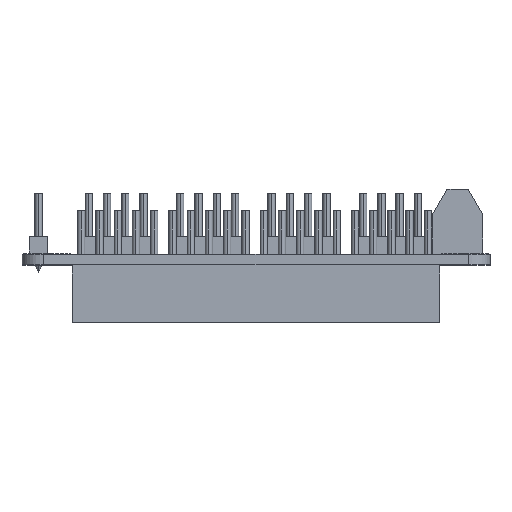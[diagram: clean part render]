
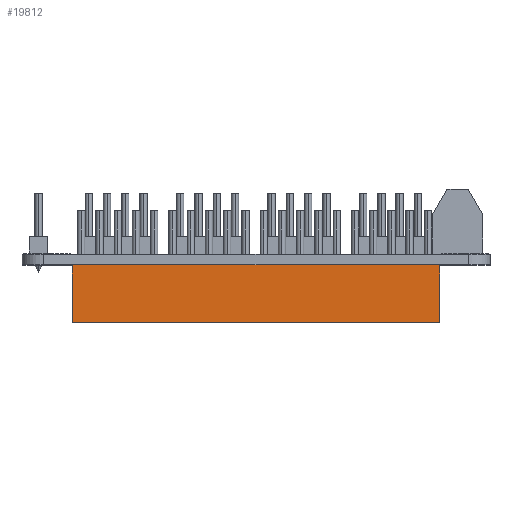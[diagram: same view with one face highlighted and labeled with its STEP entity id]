
A CAD part, top view. The second image highlights one B-rep face of the part: STEP entity #19812.
In plain terms, the highlighted planar face has unit normal (0, 0, 1).
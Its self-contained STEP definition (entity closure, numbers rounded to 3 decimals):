
#897 = EDGE_LOOP ( 'NONE', ( #20809, #18930, #7882, #15993 ) ) ;
#3222 = CARTESIAN_POINT ( 'NONE',  ( 25.5, 0., 14. ) ) ;
#3324 = PLANE ( 'NONE',  #13712 ) ;
#3391 = CARTESIAN_POINT ( 'NONE',  ( -25.5, -8., 14. ) ) ;
#3616 = VECTOR ( 'NONE', #18198, 1000. ) ;
#4670 = LINE ( 'NONE', #10408, #12521 ) ;
#4770 = VERTEX_POINT ( 'NONE', #17164 ) ;
#5529 = DIRECTION ( 'NONE',  ( -1., 0., 0. ) ) ;
#6332 = CARTESIAN_POINT ( 'NONE',  ( -25.5, -8., 14. ) ) ;
#7882 = ORIENTED_EDGE ( 'NONE', *, *, #14211, .F. ) ;
#10408 = CARTESIAN_POINT ( 'NONE',  ( 25.5, -8., 14. ) ) ;
#11150 = DIRECTION ( 'NONE',  ( 0., 0., -1. ) ) ;
#11387 = VERTEX_POINT ( 'NONE', #12209 ) ;
#11933 = DIRECTION ( 'NONE',  ( -1., 0., 0. ) ) ;
#12209 = CARTESIAN_POINT ( 'NONE',  ( 25.5, -8., 14. ) ) ;
#12521 = VECTOR ( 'NONE', #17866, 1000. ) ;
#13226 = VECTOR ( 'NONE', #11933, 1000. ) ;
#13712 = AXIS2_PLACEMENT_3D ( 'NONE', #23991, #11150, #5529 ) ;
#13786 = LINE ( 'NONE', #14137, #13226 ) ;
#14065 = VERTEX_POINT ( 'NONE', #3391 ) ;
#14137 = CARTESIAN_POINT ( 'NONE',  ( -25.5, -8., 14. ) ) ;
#14211 = EDGE_CURVE ( 'NONE', #11387, #14065, #13786, .T. ) ;
#14618 = VERTEX_POINT ( 'NONE', #3222 ) ;
#15264 = DIRECTION ( 'NONE',  ( 0., 1., 0. ) ) ;
#15993 = ORIENTED_EDGE ( 'NONE', *, *, #19717, .T. ) ;
#16249 = LINE ( 'NONE', #23687, #3616 ) ;
#16929 = VECTOR ( 'NONE', #15264, 1000. ) ;
#17103 = LINE ( 'NONE', #6332, #16929 ) ;
#17164 = CARTESIAN_POINT ( 'NONE',  ( -25.5, 0., 14. ) ) ;
#17866 = DIRECTION ( 'NONE',  ( 0., 1., 0. ) ) ;
#18198 = DIRECTION ( 'NONE',  ( -1., 0., 0. ) ) ;
#18930 = ORIENTED_EDGE ( 'NONE', *, *, #23925, .F. ) ;
#19717 = EDGE_CURVE ( 'NONE', #11387, #14618, #4670, .T. ) ;
#19812 = ADVANCED_FACE ( 'NONE', ( #20087 ), #3324, .F. ) ;
#20087 = FACE_OUTER_BOUND ( 'NONE', #897, .T. ) ;
#20809 = ORIENTED_EDGE ( 'NONE', *, *, #23603, .T. ) ;
#23603 = EDGE_CURVE ( 'NONE', #14618, #4770, #16249, .T. ) ;
#23687 = CARTESIAN_POINT ( 'NONE',  ( -25.5, 0., 14. ) ) ;
#23925 = EDGE_CURVE ( 'NONE', #14065, #4770, #17103, .T. ) ;
#23991 = CARTESIAN_POINT ( 'NONE',  ( -25.5, -8., 14. ) ) ;
